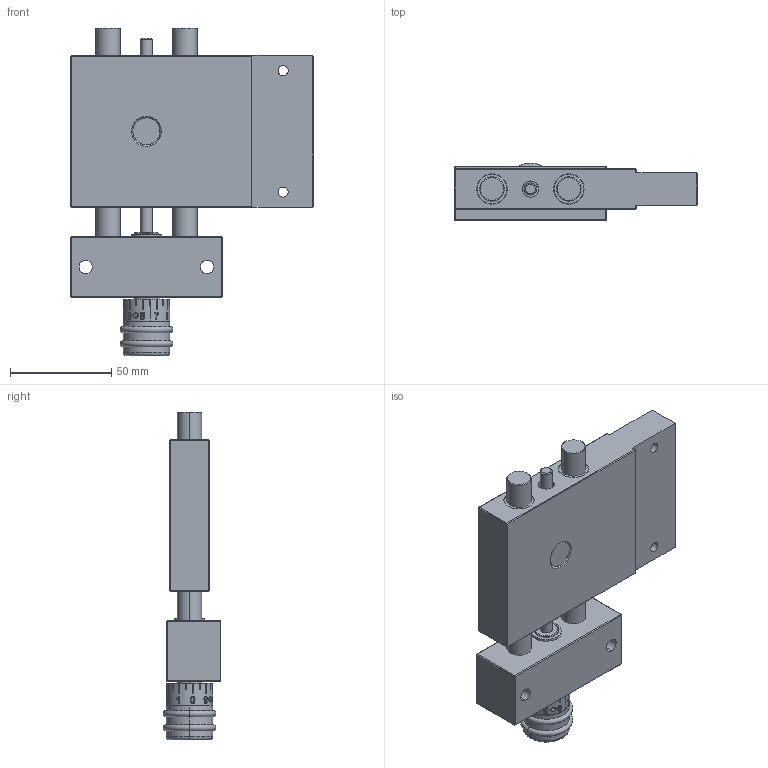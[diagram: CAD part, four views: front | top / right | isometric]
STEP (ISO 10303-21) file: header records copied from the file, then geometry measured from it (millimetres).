
FILE_DESCRIPTION (( 'STEP AP203' ), '1' );
FILE_NAME ('KT2512-KL-SK-Kreuztisch.STEP', '2016-01-15T16:55:59', ( '' ), ( '' ), 'SwSTEP 2.0', 'SolidWorks 2014', '' );
FILE_SCHEMA (( 'CONFIG_CONTROL_DESIGN' ));
Length unit declared in the file: millimetre
Products named in the file (3): KT2512-KL-SK-Kreuztisch; PT2512-000-01-Festteil-SK; KT12-000-02-K-Schlitten-komplett
Assembly tree (2 placements, depth 2):
  KT2512-KL-SK-Kreuztisch
    PT2512-000-01-Festteil-SK
    KT12-000-02-K-Schlitten-komplett
Bounding box: 120 x 28.52 x 161.89 mm (x, y, z)
Volume: 243845.6 mm3; surface area: 61009.2 mm2
Topology: 2 solids, 6 shells, 577 faces, 1399 edges, 885 vertices
Faces by surface type: plane 239, cylinder 132, bspline 102, cone 82, torus 20, sphere 2
Entity records: 31544 total; most frequent: CARTESIAN_POINT 18448, ORIENTED_EDGE 2790, DIRECTION 2391, EDGE_CURVE 1395, AXIS2_PLACEMENT_3D 915, VERTEX_POINT 885, EDGE_LOOP 654, FACE_OUTER_BOUND 577
